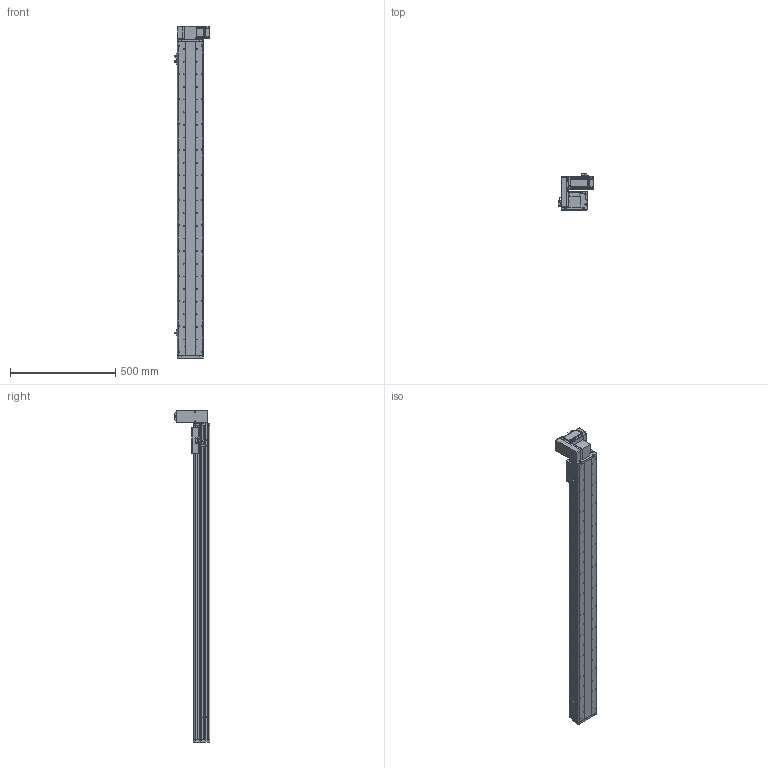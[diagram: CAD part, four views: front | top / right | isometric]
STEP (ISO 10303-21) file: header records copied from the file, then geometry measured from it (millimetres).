
FILE_DESCRIPTION (( 'STEP AP214' ), '1' );
FILE_NAME ('KSD125B-S1300-MRU-CM.STEP', '2017-10-21T07:47:19', ( '微软用户' ), ( '微软中国' ), 'SwSTEP 2.0', 'SolidWorks 2014', '' );
FILE_SCHEMA (( 'AUTOMOTIVE_DESIGN' ));
Length unit declared in the file: millimetre
Products named in the file (17): KSD125模组同步带-防撞垫2; 覜茼え68遵圉猾敕; U倰嫖萇假蚾璃; U倰嫖萇EEㄜSX672; KSD125模组同步带-防撞垫1; 100宽马达安装板同步带右; 前端板-125宽模组同步带; 125模组同步带-尾端板1; KSD125模组同步带-滑动座1; KSD125B-S1300-MRU-CM; 悵誘欶奻狟殏; HTPA30S3M150_A_H6_a佪裝蚚; HTPA30S3M150_A_H6_a萇儂蚚; 100宽马达安装板连板上下折丝杆同步带; KSD125模组1300行程同步带-防尘盖; 125模组1300行程同步带-底板; MHMD042G1CA_2_03
Assembly tree (20 placements, depth 2):
  KSD125B-S1300-MRU-CM
    KSD125模组同步带-滑动座1
    125模组同步带-尾端板1
    前端板-125宽模组同步带
    100宽马达安装板同步带右
    KSD125模组同步带-防撞垫1
    U倰嫖萇EEㄜSX672  x3
    U倰嫖萇假蚾璃  x3
    覜茼え68遵圉猾敕
    KSD125模组同步带-防撞垫2
    MHMD042G1CA_2_03
    125模组1300行程同步带-底板
    KSD125模组1300行程同步带-防尘盖
    100宽马达安装板连板上下折丝杆同步带
    HTPA30S3M150_A_H6_a萇儂蚚
    HTPA30S3M150_A_H6_a佪裝蚚
    悵誘欶奻狟殏
Bounding box: 168.7 x 170.5 x 1577 mm (x, y, z)
Volume: 4725869.7 mm3; surface area: 1573338.4 mm2
Topology: 19 solids, 22 shells, 2355 faces, 6835 edges, 4518 vertices
Faces by surface type: cylinder 1496, plane 732, cone 105, bspline 22
Entity records: 84241 total; most frequent: CARTESIAN_POINT 16603, DIRECTION 13080, ORIENTED_EDGE 12190, EDGE_CURVE 6173, AXIS2_PLACEMENT_3D 5071, VERTEX_POINT 4110, VECTOR 2938, LINE 2938
